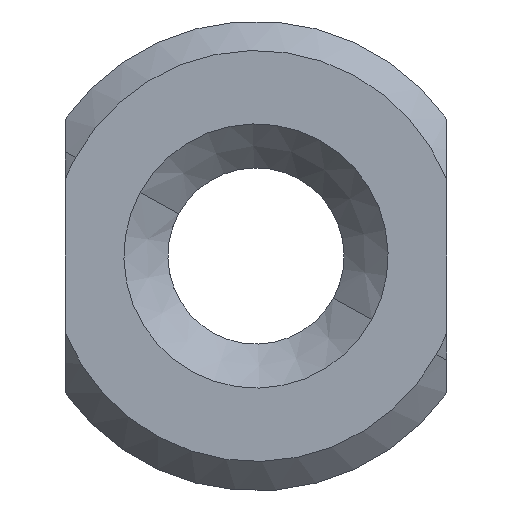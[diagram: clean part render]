
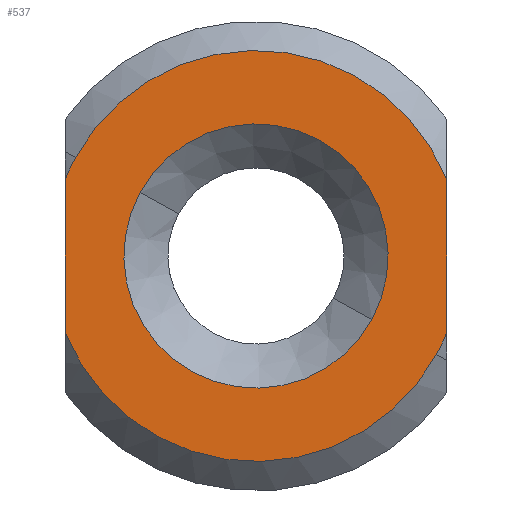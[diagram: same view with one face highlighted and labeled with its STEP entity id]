
A CAD part, front view. The second image highlights one B-rep face of the part: STEP entity #537.
In plain terms, the highlighted planar face has unit normal (0, -1, 0).
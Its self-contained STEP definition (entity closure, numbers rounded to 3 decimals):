
#356=CARTESIAN_POINT('Vertex',(-3.949,0.,2.157)) ;
#359=CARTESIAN_POINT('Axis2P3D Location',(0.,0.,0.)) ;
#363=CARTESIAN_POINT('Vertex',(3.949,0.,-2.157)) ;
#378=CARTESIAN_POINT('Axis2P3D Location',(0.,0.,0.)) ;
#478=CARTESIAN_POINT('Axis2P3D Location',(4.5,0.,0.)) ;
#483=CARTESIAN_POINT('Line Origine',(6.5,0.,0.)) ;
#487=CARTESIAN_POINT('Vertex',(6.5,0.,-2.598)) ;
#489=CARTESIAN_POINT('Vertex',(6.5,0.,2.598)) ;
#492=CARTESIAN_POINT('Axis2P3D Location',(0.,0.,0.)) ;
#496=CARTESIAN_POINT('Vertex',(-6.143,0.,3.356)) ;
#499=CARTESIAN_POINT('Axis2P3D Location',(0.,0.,0.)) ;
#503=CARTESIAN_POINT('Vertex',(-6.5,0.,2.598)) ;
#506=CARTESIAN_POINT('Line Origine',(-6.5,0.,0.)) ;
#510=CARTESIAN_POINT('Vertex',(-6.5,0.,-2.598)) ;
#513=CARTESIAN_POINT('Axis2P3D Location',(0.,0.,0.)) ;
#517=CARTESIAN_POINT('Vertex',(6.143,0.,-3.356)) ;
#520=CARTESIAN_POINT('Axis2P3D Location',(0.,0.,0.)) ;
#360=DIRECTION('Axis2P3D Direction',(0.,1.,0.)) ;
#379=DIRECTION('Axis2P3D Direction',(0.,1.,0.)) ;
#479=DIRECTION('Axis2P3D Direction',(0.,1.,0.)) ;
#480=DIRECTION('Axis2P3D XDirection',(1.,-0.,0.)) ;
#484=DIRECTION('Vector Direction',(0.,0.,1.)) ;
#493=DIRECTION('Axis2P3D Direction',(0.,1.,0.)) ;
#500=DIRECTION('Axis2P3D Direction',(0.,1.,0.)) ;
#507=DIRECTION('Vector Direction',(0.,0.,1.)) ;
#514=DIRECTION('Axis2P3D Direction',(0.,1.,0.)) ;
#521=DIRECTION('Axis2P3D Direction',(0.,1.,0.)) ;
#361=AXIS2_PLACEMENT_3D('Circle Axis2P3D',#359,#360,$) ;
#380=AXIS2_PLACEMENT_3D('Circle Axis2P3D',#378,#379,$) ;
#481=AXIS2_PLACEMENT_3D('Plane Axis2P3D',#478,#479,#480) ;
#494=AXIS2_PLACEMENT_3D('Circle Axis2P3D',#492,#493,$) ;
#501=AXIS2_PLACEMENT_3D('Circle Axis2P3D',#499,#500,$) ;
#515=AXIS2_PLACEMENT_3D('Circle Axis2P3D',#513,#514,$) ;
#522=AXIS2_PLACEMENT_3D('Circle Axis2P3D',#520,#521,$) ;
#526=ORIENTED_EDGE('',*,*,#491,.T.) ;
#527=ORIENTED_EDGE('',*,*,#498,.F.) ;
#528=ORIENTED_EDGE('',*,*,#505,.F.) ;
#529=ORIENTED_EDGE('',*,*,#512,.F.) ;
#530=ORIENTED_EDGE('',*,*,#519,.F.) ;
#531=ORIENTED_EDGE('',*,*,#524,.F.) ;
#534=ORIENTED_EDGE('',*,*,#382,.T.) ;
#535=ORIENTED_EDGE('',*,*,#365,.T.) ;
#536=FACE_BOUND('',#533,.T.) ;
#485=VECTOR('Line Direction',#484,1.) ;
#508=VECTOR('Line Direction',#507,1.) ;
#537=ADVANCED_FACE('MAIN',(#532,#536),#482,.F.) ;
#362=CIRCLE('generated circle',#361,4.5) ;
#381=CIRCLE('generated circle',#380,4.5) ;
#495=CIRCLE('generated circle',#494,7.) ;
#502=CIRCLE('generated circle',#501,7.) ;
#516=CIRCLE('generated circle',#515,7.) ;
#523=CIRCLE('generated circle',#522,7.) ;
#365=EDGE_CURVE('',#364,#357,#362,.T.) ;
#382=EDGE_CURVE('',#357,#364,#381,.T.) ;
#491=EDGE_CURVE('',#488,#490,#486,.T.) ;
#498=EDGE_CURVE('',#497,#490,#495,.T.) ;
#505=EDGE_CURVE('',#504,#497,#502,.T.) ;
#512=EDGE_CURVE('',#511,#504,#509,.T.) ;
#519=EDGE_CURVE('',#518,#511,#516,.T.) ;
#524=EDGE_CURVE('',#488,#518,#523,.T.) ;
#525=EDGE_LOOP('',(#526,#527,#528,#529,#530,#531)) ;
#533=EDGE_LOOP('',(#534,#535)) ;
#532=FACE_OUTER_BOUND('',#525,.T.) ;
#486=LINE('Line',#483,#485) ;
#509=LINE('Line',#506,#508) ;
#482=PLANE('',#481) ;
#357=VERTEX_POINT('',#356) ;
#364=VERTEX_POINT('',#363) ;
#488=VERTEX_POINT('',#487) ;
#490=VERTEX_POINT('',#489) ;
#497=VERTEX_POINT('',#496) ;
#504=VERTEX_POINT('',#503) ;
#511=VERTEX_POINT('',#510) ;
#518=VERTEX_POINT('',#517) ;
